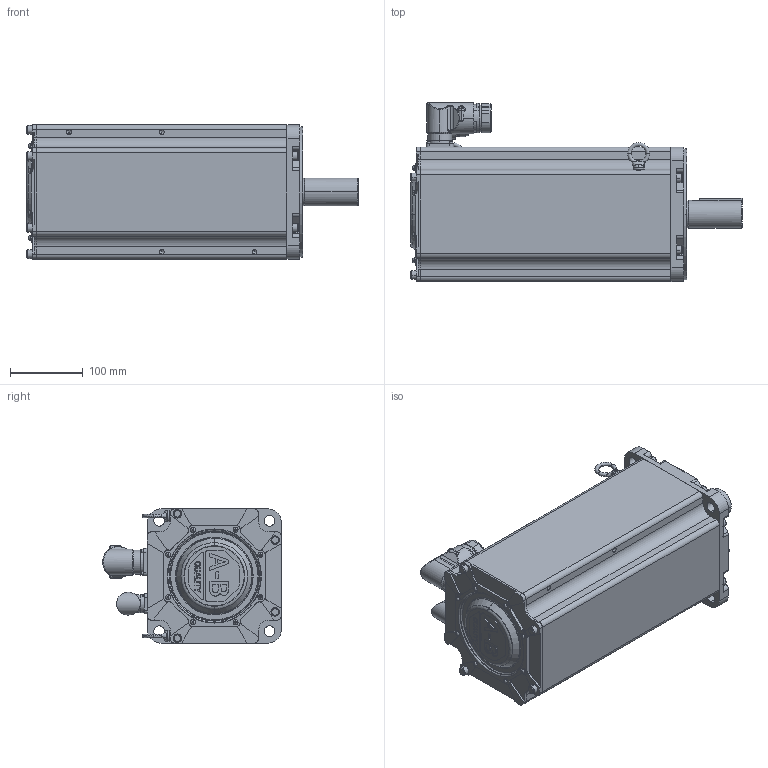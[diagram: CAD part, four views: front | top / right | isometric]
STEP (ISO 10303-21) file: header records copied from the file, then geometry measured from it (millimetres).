
FILE_DESCRIPTION (( 'STEP AP214' ), '1' );
FILE_NAME ('Rockwell Automation-MPM_Medium_Inertia_Motor-MPM-B2154B-xx72xx.STEP', '2012-04-27T19:22:48', ( 'SysAdmin' ), ( 'SolidWorks' ), 'SwSTEP 2.0', 'SolidWorks 2012', '' );
FILE_SCHEMA (( 'AUTOMOTIVE_DESIGN' ));
Length unit declared in the file: inch
Products named in the file (6): Rockwell Automation-MPM_Medium_Inertia_Motor-MPM-B2154B-xx72xx_MPM-xxx-Eyebolt; Rockwell Automation-MPM_Medium_Inertia_Motor-MPM-B2154B-xx72xx_MPM-xxxx-Power Connector-M40; Rockwell Automation-MPM_Medium_Inertia_Motor-MPM-B2154B-xx72xx_MPM-xxxx-Encoder Connector; Rockwell Automation-MPM_Medium_Inertia_Motor-MPM-B2154B-xx72xx_MPM-215x-Shaft_2154-shaft-key; Rockwell Automation-MPM_Medium_Inertia_Motor-MPM-B2154B-xx72xx_MPM-215x-Body_2154; Rockwell Automation-MPM_Medium_Inertia_Motor-MPM-B2154B-xx72xx
Assembly tree (6 placements, depth 2):
  Rockwell Automation-MPM_Medium_Inertia_Motor-MPM-B2154B-xx72xx
    Rockwell Automation-MPM_Medium_Inertia_Motor-MPM-B2154B-xx72xx_MPM-215x-Body_2154
    Rockwell Automation-MPM_Medium_Inertia_Motor-MPM-B2154B-xx72xx_MPM-215x-Shaft_2154-shaft-key
    Rockwell Automation-MPM_Medium_Inertia_Motor-MPM-B2154B-xx72xx_MPM-xxxx-Encoder Connector
    Rockwell Automation-MPM_Medium_Inertia_Motor-MPM-B2154B-xx72xx_MPM-xxxx-Power Connector-M40
    Rockwell Automation-MPM_Medium_Inertia_Motor-MPM-B2154B-xx72xx_MPM-xxx-Eyebolt  x2
Bounding box: 457.14 x 246.39 x 184.91 mm (x, y, z)
Volume: 7345999.6 mm3; surface area: 801810.4 mm2
Topology: 9 solids, 9 shells, 1058 faces, 2610 edges, 1661 vertices
Faces by surface type: plane 444, cylinder 371, torus 108, cone 84, bspline 51
Entity records: 36418 total; most frequent: CARTESIAN_POINT 9555, DIRECTION 5412, ORIENTED_EDGE 5098, EDGE_CURVE 2549, AXIS2_PLACEMENT_3D 2023, VERTEX_POINT 1635, VECTOR 1366, LINE 1366
